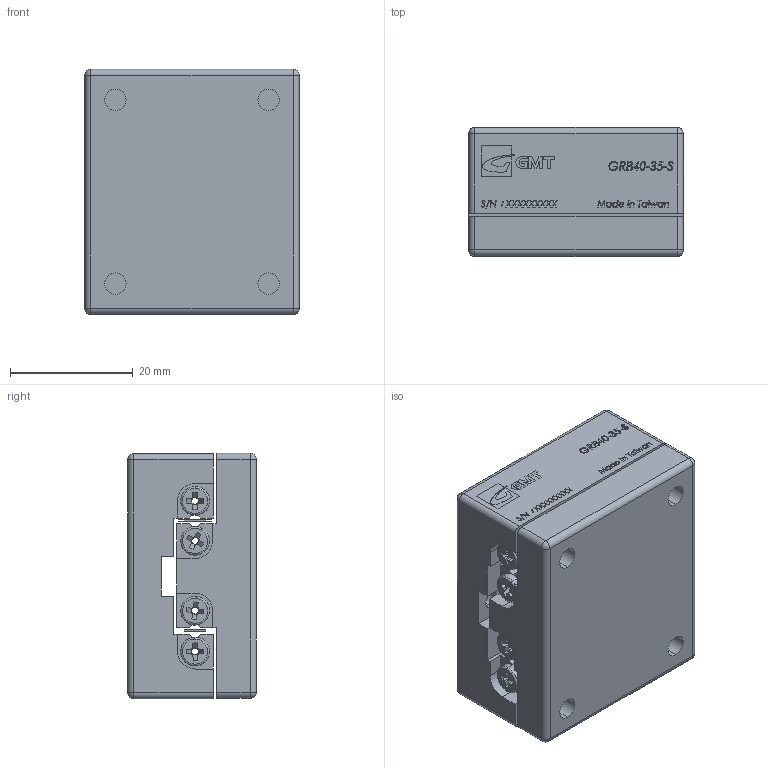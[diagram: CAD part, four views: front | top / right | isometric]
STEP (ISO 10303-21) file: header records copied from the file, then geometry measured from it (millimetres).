
FILE_DESCRIPTION (( 'STEP AP203' ), '1' );
FILE_NAME ('GRB40-35-S.STEP', '2013-12-17T06:04:40', ( '' ), ( '' ), 'SwSTEP 2.0', 'SolidWorks 2013', '' );
FILE_SCHEMA (( 'CONFIG_CONTROL_DESIGN' ));
Length unit declared in the file: millimetre
Products named in the file (1): GRB40-35-S
Bounding box: 35 x 21 x 40.07 mm (x, y, z)
Surface area: 10632.6 mm2 (no closed solid volume)
Topology: 0 solids, 37 shells, 410 faces, 2087 edges, 1696 vertices
Faces by surface type: plane 260, cylinder 67, torus 32, cone 32, bspline 11, sphere 8
Entity records: 25038 total; most frequent: CARTESIAN_POINT 9533, ORIENTED_EDGE 2846, DIRECTION 2825, EDGE_CURVE 2079, VERTEX_POINT 1696, LINE 1301, VECTOR 1301, AXIS2_PLACEMENT_3D 762
